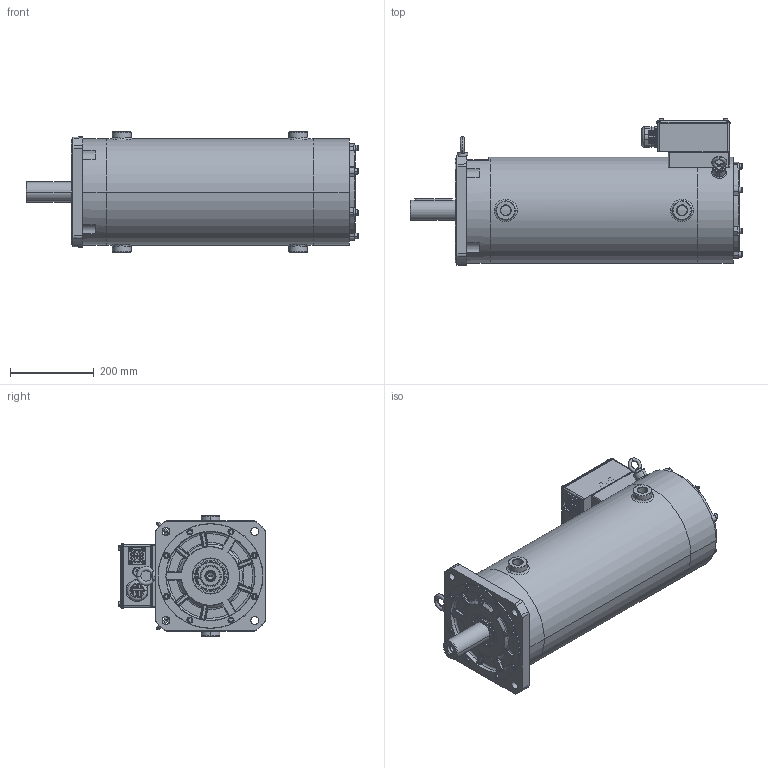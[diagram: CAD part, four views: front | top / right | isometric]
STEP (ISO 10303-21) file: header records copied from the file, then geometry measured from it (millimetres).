
FILE_DESCRIPTION((''),'2;1');
FILE_NAME('MOTOR-440____SW0001','2026-02-12T16:42:36',('01002423'),(''),'CREO PARAMETRIC BY PTC INC, 2019080','CREO PARAMETRIC BY PTC INC, 2019080','');
FILE_SCHEMA(('CONFIG_CONTROL_DESIGN'));
Length unit declared in the file: millimetre
Products named in the file (1): MOTOR-440____SW0001
Bounding box: 792 x 350.99 x 287 mm (x, y, z)
Surface area: 2692907.9 mm2 (no closed solid volume)
Topology: 0 solids, 108 shells, 1938 faces, 6460 edges, 4617 vertices
Faces by surface type: plane 692, cylinder 559, bspline 350, cone 163, torus 150, sphere 24
Entity records: 117298 total; most frequent: CARTESIAN_POINT 63203, DIRECTION 10799, ORIENTED_EDGE 10689, EDGE_CURVE 6428, VERTEX_POINT 4617, AXIS2_PLACEMENT_3D 3821, VECTOR 3157, LINE 3157
